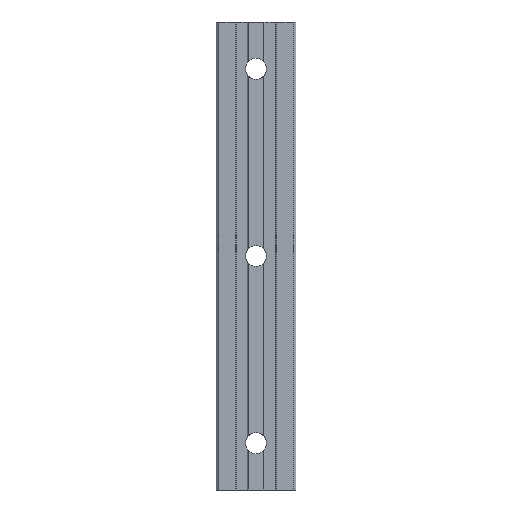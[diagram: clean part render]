
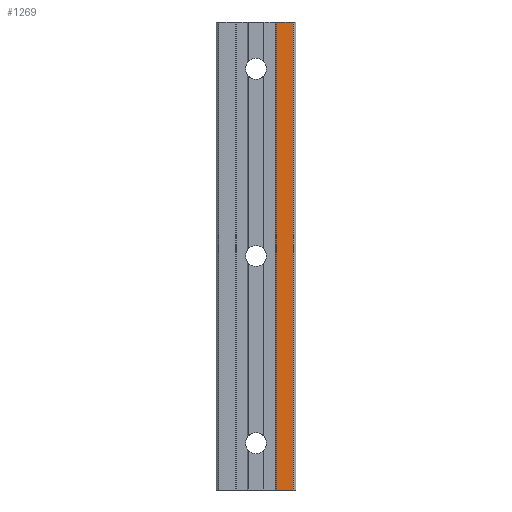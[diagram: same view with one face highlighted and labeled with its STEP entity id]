
A CAD part, front view. The second image highlights one B-rep face of the part: STEP entity #1269.
In plain terms, the highlighted planar face has unit normal (0, -1, 0).
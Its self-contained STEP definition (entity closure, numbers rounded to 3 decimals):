
#41 = VECTOR ( 'NONE', #1545, 1000. ) ;
#63 = EDGE_CURVE ( 'NONE', #641, #64, #1191, .T. ) ;
#64 = VERTEX_POINT ( 'NONE', #1047 ) ;
#106 = DIRECTION ( 'NONE',  ( 0., 1., 0. ) ) ;
#185 = LINE ( 'NONE', #1735, #1180 ) ;
#211 = CARTESIAN_POINT ( 'NONE',  ( 8.75, 0., 0. ) ) ;
#272 = EDGE_CURVE ( 'NONE', #641, #1528, #1712, .T. ) ;
#397 = PLANE ( 'NONE',  #915 ) ;
#479 = DIRECTION ( 'NONE',  ( 0., 0., 1. ) ) ;
#483 = VERTEX_POINT ( 'NONE', #211 ) ;
#552 = ORIENTED_EDGE ( 'NONE', *, *, #1949, .F. ) ;
#565 = CARTESIAN_POINT ( 'NONE',  ( 16., 0., 0. ) ) ;
#603 = LINE ( 'NONE', #1072, #1437 ) ;
#641 = VERTEX_POINT ( 'NONE', #1444 ) ;
#708 = DIRECTION ( 'NONE',  ( -1., 0., 0. ) ) ;
#886 = CARTESIAN_POINT ( 'NONE',  ( 16., 0., -200. ) ) ;
#915 = AXIS2_PLACEMENT_3D ( 'NONE', #1506, #106, #1477 ) ;
#920 = CARTESIAN_POINT ( 'NONE',  ( 16., 0., -200. ) ) ;
#1010 = FACE_OUTER_BOUND ( 'NONE', #1791, .T. ) ;
#1047 = CARTESIAN_POINT ( 'NONE',  ( 8.75, 0., -200. ) ) ;
#1072 = CARTESIAN_POINT ( 'NONE',  ( 16., 0., 0. ) ) ;
#1180 = VECTOR ( 'NONE', #479, 1000. ) ;
#1191 = LINE ( 'NONE', #886, #1708 ) ;
#1222 = ORIENTED_EDGE ( 'NONE', *, *, #272, .T. ) ;
#1269 = ADVANCED_FACE ( 'NONE', ( #1010 ), #397, .F. ) ;
#1437 = VECTOR ( 'NONE', #1705, 1000. ) ;
#1444 = CARTESIAN_POINT ( 'NONE',  ( 16., 0., -200. ) ) ;
#1477 = DIRECTION ( 'NONE',  ( 0., 0., 1. ) ) ;
#1506 = CARTESIAN_POINT ( 'NONE',  ( 16., 0., -200. ) ) ;
#1528 = VERTEX_POINT ( 'NONE', #565 ) ;
#1545 = DIRECTION ( 'NONE',  ( 0., 0., 1. ) ) ;
#1694 = EDGE_CURVE ( 'NONE', #1528, #483, #603, .T. ) ;
#1704 = ORIENTED_EDGE ( 'NONE', *, *, #1694, .T. ) ;
#1705 = DIRECTION ( 'NONE',  ( -1., 0., 0. ) ) ;
#1708 = VECTOR ( 'NONE', #708, 1000. ) ;
#1712 = LINE ( 'NONE', #920, #41 ) ;
#1735 = CARTESIAN_POINT ( 'NONE',  ( 8.75, 0., -200. ) ) ;
#1791 = EDGE_LOOP ( 'NONE', ( #1704, #552, #1925, #1222 ) ) ;
#1925 = ORIENTED_EDGE ( 'NONE', *, *, #63, .F. ) ;
#1949 = EDGE_CURVE ( 'NONE', #64, #483, #185, .T. ) ;
